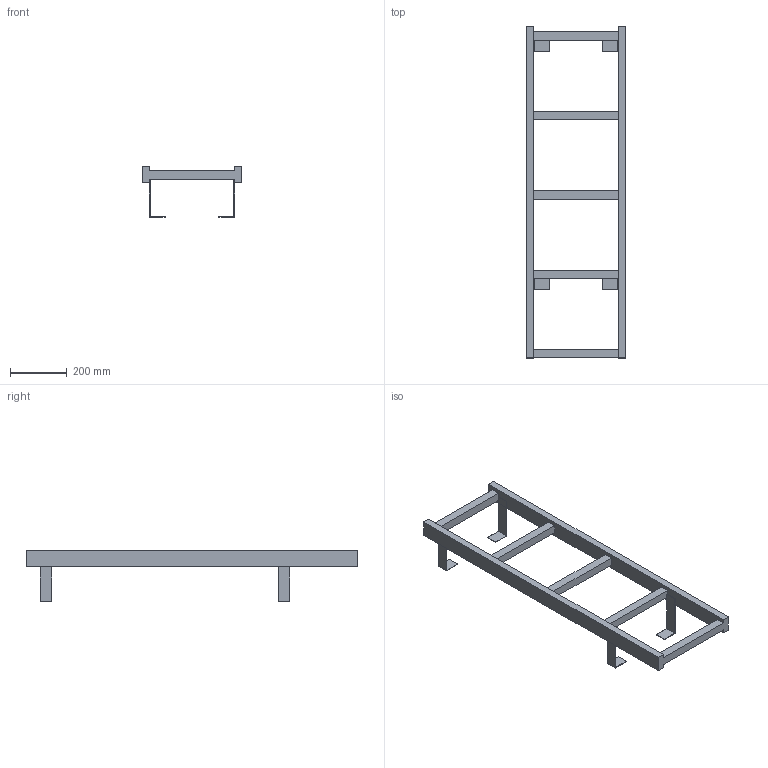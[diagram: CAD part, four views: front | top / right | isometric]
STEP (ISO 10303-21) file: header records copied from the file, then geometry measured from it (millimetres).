
FILE_DESCRIPTION((''),'2;1');
FILE_NAME('52311053','2024-10-17T12:53:54',('wep'),('HUBER SE'),'CREO PARAMETRIC BY PTC INC, 2022162','CREO PARAMETRIC BY PTC INC, 2022162','');
FILE_SCHEMA(('AUTOMOTIVE_DESIGN { 1 0 10303 214 1 1 1 1 }'));
Length unit declared in the file: millimetre
Products named in the file (1): 52311053
Bounding box: 350 x 1170 x 178.5 mm (x, y, z)
Volume: 4749460 mm3; surface area: 619948 mm2
Topology: 1 solids, 1 shells, 62 faces, 180 edges, 116 vertices
Faces by surface type: plane 62
Entity records: 2573 total; most frequent: CARTESIAN_POINT 360, ORIENTED_EDGE 360, DIRECTION 304, VECTOR 180, LINE 180, EDGE_CURVE 180, VERTEX_POINT 116, COLOUR_RGB 106
